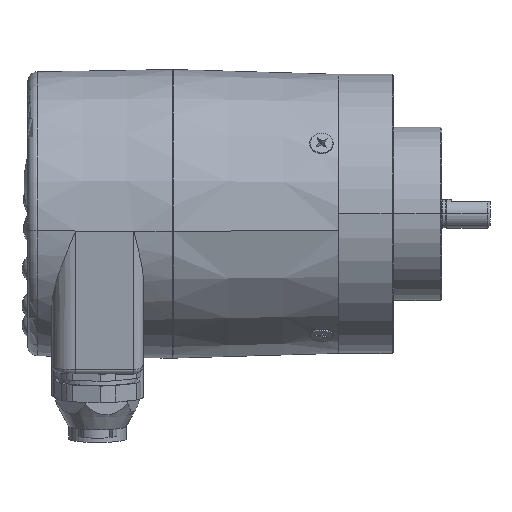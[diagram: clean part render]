
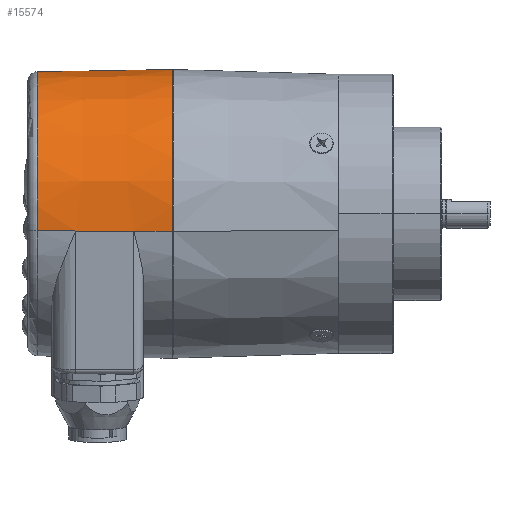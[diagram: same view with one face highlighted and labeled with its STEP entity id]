
A CAD part, top view. The second image highlights one B-rep face of the part: STEP entity #15574.
In plain terms, the highlighted conical face has half-angle 1 degrees and reference radius 30 mm.
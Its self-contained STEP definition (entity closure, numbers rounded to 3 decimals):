
#3897 = CARTESIAN_POINT ( 'NONE',  ( -47.037, 3.613, -29.428 ) ) ;
#4180 = LINE ( 'NONE', #4182, #4184 ) ;
#4182 = CARTESIAN_POINT ( 'NONE',  ( -26.95, 3.656, -29.776 ) ) ;
#4184 = VECTOR ( 'NONE', #4190, 1000. ) ;
#4190 = DIRECTION ( 'NONE',  ( 1., 0.002, -0.017 ) ) ;
#6972 = AXIS2_PLACEMENT_3D ( 'NONE', #6974, #6984, #6985 ) ;
#6974 = CARTESIAN_POINT ( 'NONE',  ( -26.95, 0., 0. ) ) ;
#6975 = CIRCLE ( 'NONE', #6972, 30. ) ;
#6984 = DIRECTION ( 'NONE',  ( 1., 0., 0. ) ) ;
#6985 = DIRECTION ( 'NONE',  ( 0., 0.122, -0.993 ) ) ;
#6986 = CARTESIAN_POINT ( 'NONE',  ( -26.95, 3.656, -29.776 ) ) ;
#7847 = DIRECTION ( 'NONE',  ( 1., -0.002, 0.017 ) ) ;
#7848 = VECTOR ( 'NONE', #7847, 1000. ) ;
#7849 = CARTESIAN_POINT ( 'NONE',  ( -26.95, -3.656, 29.776 ) ) ;
#7855 = LINE ( 'NONE', #7849, #7848 ) ;
#7878 = CARTESIAN_POINT ( 'NONE',  ( -54.985, 0., 0. ) ) ;
#7879 = CIRCLE ( 'NONE', #7889, 29.511 ) ;
#7885 = CARTESIAN_POINT ( 'NONE',  ( -54.985, -3.596, 29.291 ) ) ;
#7886 = CARTESIAN_POINT ( 'NONE',  ( -54.985, 3.596, -29.291 ) ) ;
#7887 = DIRECTION ( 'NONE',  ( 0., -0.122, 0.993 ) ) ;
#7888 = DIRECTION ( 'NONE',  ( 1., 0., 0. ) ) ;
#7889 = AXIS2_PLACEMENT_3D ( 'NONE', #7878, #7888, #7887 ) ;
#7947 = DIRECTION ( 'NONE',  ( 1., 0., 0. ) ) ;
#7948 = AXIS2_PLACEMENT_3D ( 'NONE', #7982, #7947, #7955 ) ;
#7949 = CONICAL_SURFACE ( 'NONE', #7948, 30., 0.017 ) ;
#7955 = DIRECTION ( 'NONE',  ( 0., 0.122, -0.993 ) ) ;
#7982 = CARTESIAN_POINT ( 'NONE',  ( -26.95, 0., 0. ) ) ;
#7985 = FACE_OUTER_BOUND ( 'NONE', #15563, .T. ) ;
#9307 = DIRECTION ( 'NONE',  ( 1., -0.002, 0.017 ) ) ;
#9309 = VECTOR ( 'NONE', #9307, 1000. ) ;
#9311 = CARTESIAN_POINT ( 'NONE',  ( -27.473, -3.655, 29.767 ) ) ;
#9326 = CARTESIAN_POINT ( 'NONE',  ( -26.95, -3.656, 29.776 ) ) ;
#9366 = CARTESIAN_POINT ( 'NONE',  ( -47.037, -3.613, 29.428 ) ) ;
#9394 = DIRECTION ( 'NONE',  ( 1., -0.002, 0.017 ) ) ;
#9395 = VECTOR ( 'NONE', #9394, 1000. ) ;
#9397 = CARTESIAN_POINT ( 'NONE',  ( -26.95, -3.656, 29.776 ) ) ;
#9399 = LINE ( 'NONE', #9397, #9395 ) ;
#9406 = LINE ( 'NONE', #9311, #9309 ) ;
#9443 = CARTESIAN_POINT ( 'NONE',  ( -34.985, -3.639, 29.637 ) ) ;
#15358 = ORIENTED_EDGE ( 'NONE', *, *, #15637, .F. ) ;
#15359 = ORIENTED_EDGE ( 'NONE', *, *, #15375, .F. ) ;
#15360 = EDGE_CURVE ( 'NONE', #15373, #15469, #18472, .T. ) ;
#15373 = VERTEX_POINT ( 'NONE', #18508 ) ;
#15375 = EDGE_CURVE ( 'NONE', #15623, #15373, #18518, .T. ) ;
#15467 = ORIENTED_EDGE ( 'NONE', *, *, #15468, .F. ) ;
#15468 = EDGE_CURVE ( 'NONE', #15469, #15512, #6975, .T. ) ;
#15469 = VERTEX_POINT ( 'NONE', #6986 ) ;
#15504 = ORIENTED_EDGE ( 'NONE', *, *, #15505, .T. ) ;
#15505 = EDGE_CURVE ( 'NONE', #15567, #15506, #7855, .T. ) ;
#15506 = VERTEX_POINT ( 'NONE', #9366 ) ;
#15507 = ORIENTED_EDGE ( 'NONE', *, *, #15508, .T. ) ;
#15508 = EDGE_CURVE ( 'NONE', #15506, #15509, #9406, .T. ) ;
#15509 = VERTEX_POINT ( 'NONE', #9443 ) ;
#15510 = ORIENTED_EDGE ( 'NONE', *, *, #15511, .T. ) ;
#15511 = EDGE_CURVE ( 'NONE', #15509, #15512, #9399, .T. ) ;
#15512 = VERTEX_POINT ( 'NONE', #9326 ) ;
#15563 = EDGE_LOOP ( 'NONE', ( #15564, #15504, #15507, #15510, #15467, #15612, #15359, #15358 ) ) ;
#15564 = ORIENTED_EDGE ( 'NONE', *, *, #15565, .T. ) ;
#15565 = EDGE_CURVE ( 'NONE', #15566, #15567, #7879, .T. ) ;
#15566 = VERTEX_POINT ( 'NONE', #7886 ) ;
#15567 = VERTEX_POINT ( 'NONE', #7885 ) ;
#15574 = ADVANCED_FACE ( 'NONE', ( #7985 ), #7949, .T. ) ;
#15612 = ORIENTED_EDGE ( 'NONE', *, *, #15360, .F. ) ;
#15623 = VERTEX_POINT ( 'NONE', #3897 ) ;
#15637 = EDGE_CURVE ( 'NONE', #15566, #15623, #4180, .T. ) ;
#18469 = DIRECTION ( 'NONE',  ( 1., 0.002, -0.017 ) ) ;
#18470 = VECTOR ( 'NONE', #18469, 1000. ) ;
#18471 = CARTESIAN_POINT ( 'NONE',  ( -26.95, 3.656, -29.776 ) ) ;
#18472 = LINE ( 'NONE', #18471, #18470 ) ;
#18508 = CARTESIAN_POINT ( 'NONE',  ( -34.985, 3.639, -29.637 ) ) ;
#18517 = CARTESIAN_POINT ( 'NONE',  ( -27.473, 3.655, -29.767 ) ) ;
#18518 = LINE ( 'NONE', #18517, #18521 ) ;
#18520 = DIRECTION ( 'NONE',  ( 1., 0.002, -0.017 ) ) ;
#18521 = VECTOR ( 'NONE', #18520, 1000. ) ;
